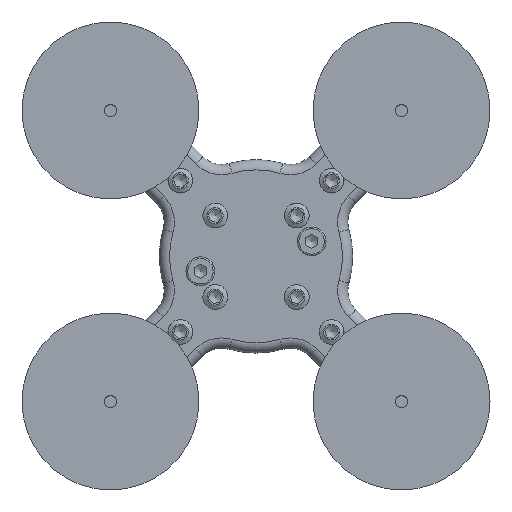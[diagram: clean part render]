
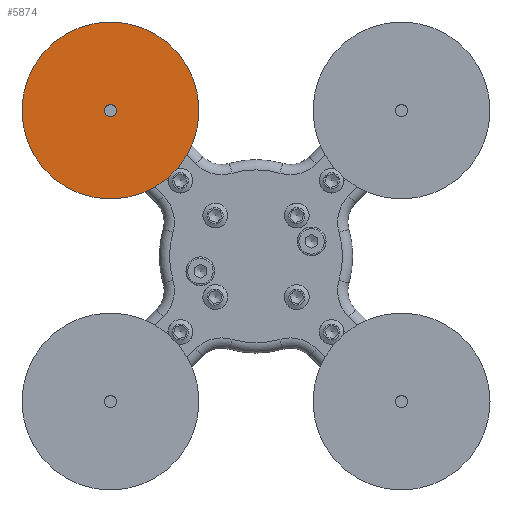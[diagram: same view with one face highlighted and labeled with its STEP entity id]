
A CAD part, top view. The second image highlights one B-rep face of the part: STEP entity #5874.
In plain terms, the highlighted planar face has unit normal (0, 0, 1) as drawn and (0, -1, 0) by its records, which use the part's own axes.
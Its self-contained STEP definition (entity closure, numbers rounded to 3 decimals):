
#894=PLANE('',#6520);
#1224=FACE_BOUND('',#2070,.T.);
#1225=FACE_BOUND('',#2071,.T.);
#2070=EDGE_LOOP('',(#4979));
#2071=EDGE_LOOP('',(#4980,#4981));
#2448=CIRCLE('',#6518,21.502);
#2449=CIRCLE('',#6519,21.502);
#2450=CIRCLE('',#6521,1.5);
#2927=VERTEX_POINT('',#12644);
#2928=VERTEX_POINT('',#12645);
#2929=VERTEX_POINT('',#12652);
#3622=EDGE_CURVE('',#2927,#2928,#2448,.T.);
#3623=EDGE_CURVE('',#2928,#2927,#2449,.T.);
#3625=EDGE_CURVE('',#2929,#2929,#2450,.T.);
#4979=ORIENTED_EDGE('',*,*,#3625,.F.);
#4980=ORIENTED_EDGE('',*,*,#3622,.T.);
#4981=ORIENTED_EDGE('',*,*,#3623,.T.);
#5874=ADVANCED_FACE('',(#1224,#1225),#894,.T.);
#6518=AXIS2_PLACEMENT_3D('',#12646,#7962,#7963);
#6519=AXIS2_PLACEMENT_3D('',#12647,#7964,#7965);
#6520=AXIS2_PLACEMENT_3D('',#12651,#7966,#7967);
#6521=AXIS2_PLACEMENT_3D('',#12653,#7968,#7969);
#7962=DIRECTION('center_axis',(0.,-1.,0.));
#7963=DIRECTION('ref_axis',(1.,0.,0.));
#7964=DIRECTION('center_axis',(0.,-1.,0.));
#7965=DIRECTION('ref_axis',(1.,0.,0.));
#7966=DIRECTION('center_axis',(0.,-1.,0.));
#7967=DIRECTION('ref_axis',(0.,0.,-1.));
#7968=DIRECTION('center_axis',(0.,-1.,0.));
#7969=DIRECTION('ref_axis',(1.,0.,0.));
#12644=CARTESIAN_POINT('',(21.502,0.,0.));
#12645=CARTESIAN_POINT('',(0.,0.,21.502));
#12646=CARTESIAN_POINT('Origin',(0.,0.,0.));
#12647=CARTESIAN_POINT('Origin',(0.,0.,0.));
#12651=CARTESIAN_POINT('Origin',(11.501,0.,0.));
#12652=CARTESIAN_POINT('',(1.5,0.,0.));
#12653=CARTESIAN_POINT('Origin',(0.,0.,0.));
